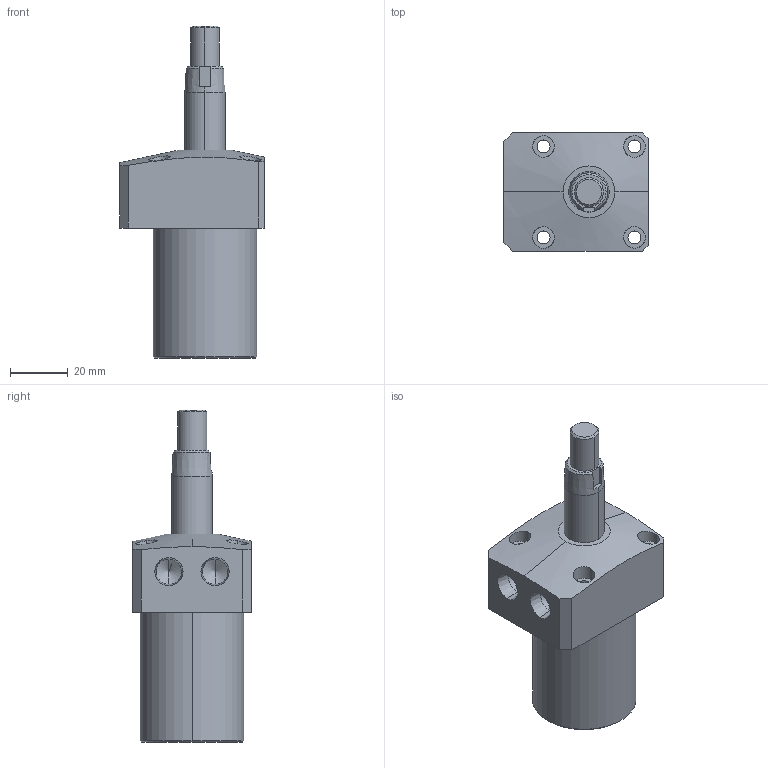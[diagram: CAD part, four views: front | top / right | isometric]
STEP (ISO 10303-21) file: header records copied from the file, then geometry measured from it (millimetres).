
FILE_DESCRIPTION (( 'STEP AP214' ), '1' );
FILE_NAME ('SC02-361-R.STEP', '2021-08-21T14:24:15', ( '' ), ( '' ), 'SwSTEP 2.0', 'SolidWorks 2019', '' );
FILE_SCHEMA (( 'AUTOMOTIVE_DESIGN' ));
Length unit declared in the file: millimetre
Products named in the file (3): SC02-361-R; 36-PISTON; SC02-36BODY-TOP
Assembly tree (2 placements, depth 2):
  SC02-361-R
    SC02-36BODY-TOP
    36-PISTON
Bounding box: 50 x 41 x 115 mm (x, y, z)
Volume: 98285.8 mm3; surface area: 21749.2 mm2
Topology: 2 solids, 2 shells, 75 faces, 171 edges, 107 vertices
Faces by surface type: cylinder 32, plane 25, cone 18
Entity records: 2504 total; most frequent: CARTESIAN_POINT 687, DIRECTION 377, ORIENTED_EDGE 334, EDGE_CURVE 167, AXIS2_PLACEMENT_3D 152, VERTEX_POINT 107, EDGE_LOOP 94, ADVANCED_FACE 75
